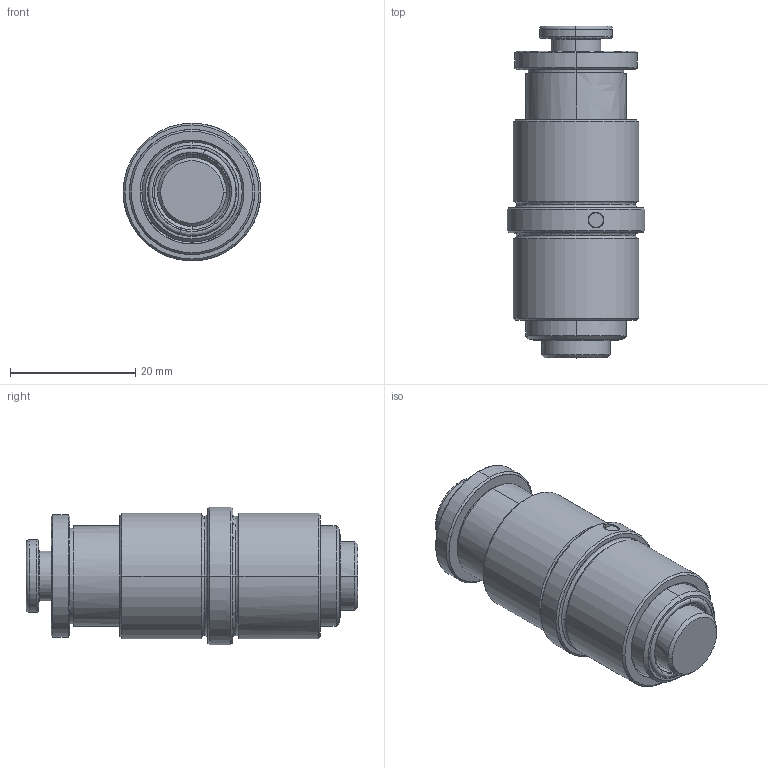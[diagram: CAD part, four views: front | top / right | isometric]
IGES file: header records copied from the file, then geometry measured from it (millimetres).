
Start section: START RECORD GO HERE.
Global section: file name: ae041620.igs; native system: DASSAULT SYSTEMES CATIA V5 R20 - www.3ds.com; preprocessor: CATIA Version 5 Release 20 ; author: Utente; organization: NB04-ASUS; date: 20201103.203229; units: millimetre
Bounding box: 22 x 53 x 22 mm (x, y, z)
Surface area: 13022.4 mm2 (no closed solid volume)
Topology: 0 solids, 0 shells, 519 faces, 2672 edges, 2636 vertices
Faces by surface type: revolution 321, plane 135, bspline 63
